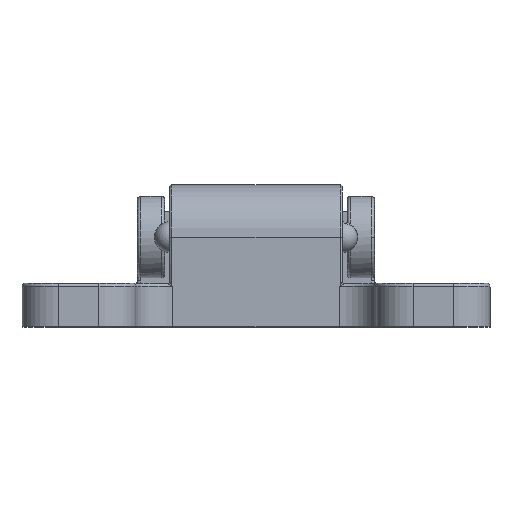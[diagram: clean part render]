
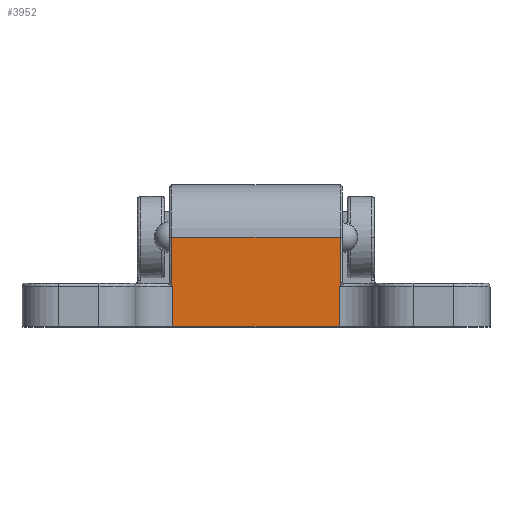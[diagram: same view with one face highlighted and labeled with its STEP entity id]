
A CAD part, left-side view. The second image highlights one B-rep face of the part: STEP entity #3952.
In plain terms, the highlighted planar face has unit normal (-1, 0, 0).
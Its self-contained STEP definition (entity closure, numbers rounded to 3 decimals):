
#343 = CARTESIAN_POINT ( 'NONE',  ( 1.5, 13.7, 14.5 ) ) ;
#353 = CARTESIAN_POINT ( 'NONE',  ( 1.5, 13.7, 6.575 ) ) ;
#361 = CARTESIAN_POINT ( 'NONE',  ( 1.5, 13.5, 6.5 ) ) ;
#389 = CARTESIAN_POINT ( 'NONE',  ( 1.5, -13.7, 14.5 ) ) ;
#397 = CARTESIAN_POINT ( 'NONE',  ( 1.5, -13.5, 0. ) ) ;
#416 = CARTESIAN_POINT ( 'NONE',  ( 1.5, 13.5, 0. ) ) ;
#477 = CARTESIAN_POINT ( 'NONE',  ( 1.5, -13.5, 6.5 ) ) ;
#1084 = VERTEX_POINT ( 'NONE', #5208 ) ;
#1139 = B_SPLINE_CURVE_WITH_KNOTS ( 'NONE', 3,
 ( #5695, #5709, #5710, #5713, #5714, #5767, #5765 ),
 .UNSPECIFIED., .F., .F.,
 ( 4, 3, 4 ),
 ( 0., 0., 0. ),
 .UNSPECIFIED. ) ;
#1140 = B_SPLINE_CURVE_WITH_KNOTS ( 'NONE', 3,
 ( #5700, #5752, #5751, #5753, #5749, #5740, #5730 ),
 .UNSPECIFIED., .F., .F.,
 ( 4, 3, 4 ),
 ( 0., 0., 0. ),
 .UNSPECIFIED. ) ;
#1774 = ORIENTED_EDGE ( 'NONE', *, *, #3794, .T. ) ;
#1775 = ORIENTED_EDGE ( 'NONE', *, *, #3793, .T. ) ;
#1776 = ORIENTED_EDGE ( 'NONE', *, *, #3790, .T. ) ;
#1777 = ORIENTED_EDGE ( 'NONE', *, *, #3772, .F. ) ;
#1778 = ORIENTED_EDGE ( 'NONE', *, *, #3791, .T. ) ;
#1780 = ORIENTED_EDGE ( 'NONE', *, *, #3796, .T. ) ;
#1781 = ORIENTED_EDGE ( 'NONE', *, *, #3795, .T. ) ;
#1782 = ORIENTED_EDGE ( 'NONE', *, *, #3792, .T. ) ;
#2282 = EDGE_LOOP ( 'NONE', ( #1774, #1775, #1776, #1777, #1778, #1780, #1781, #1782 ) ) ;
#2308 = FACE_OUTER_BOUND ( 'NONE', #2282, .T. ) ;
#2545 = VECTOR ( 'NONE', #5754, 1000. ) ;
#2546 = LINE ( 'NONE', #5756, #2545 ) ;
#2549 = VECTOR ( 'NONE', #6061, 1000. ) ;
#2551 = LINE ( 'NONE', #5704, #2549 ) ;
#2552 = LINE ( 'NONE', #5764, #2574 ) ;
#2553 = VECTOR ( 'NONE', #5701, 1000. ) ;
#2555 = VECTOR ( 'NONE', #6020, 1000. ) ;
#2556 = LINE ( 'NONE', #5699, #2555 ) ;
#2560 = LINE ( 'NONE', #5731, #2553 ) ;
#2574 = VECTOR ( 'NONE', #5758, 1000. ) ;
#2585 = VECTOR ( 'NONE', #6719, 1000. ) ;
#2598 = LINE ( 'NONE', #6740, #2585 ) ;
#3772 = EDGE_CURVE ( 'NONE', #5350, #5314, #2598, .T. ) ;
#3790 = EDGE_CURVE ( 'NONE', #5540, #5314, #2556, .T. ) ;
#3791 = EDGE_CURVE ( 'NONE', #5350, #5005, #2560, .T. ) ;
#3792 = EDGE_CURVE ( 'NONE', #5519, #5554, #2551, .T. ) ;
#3793 = EDGE_CURVE ( 'NONE', #5547, #5540, #1139, .T. ) ;
#3794 = EDGE_CURVE ( 'NONE', #5554, #5547, #2552, .T. ) ;
#3795 = EDGE_CURVE ( 'NONE', #1084, #5519, #2546, .T. ) ;
#3796 = EDGE_CURVE ( 'NONE', #5005, #1084, #1140, .T. ) ;
#3952 = ADVANCED_FACE ( 'NONE', ( #2308 ), #6148, .F. ) ;
#4260 = AXIS2_PLACEMENT_3D ( 'NONE', #6149, #6203, #6136 ) ;
#5005 = VERTEX_POINT ( 'NONE', #477 ) ;
#5208 = CARTESIAN_POINT ( 'NONE',  ( 1.5, -13.7, 6.575 ) ) ;
#5314 = VERTEX_POINT ( 'NONE', #416 ) ;
#5350 = VERTEX_POINT ( 'NONE', #397 ) ;
#5519 = VERTEX_POINT ( 'NONE', #389 ) ;
#5540 = VERTEX_POINT ( 'NONE', #361 ) ;
#5547 = VERTEX_POINT ( 'NONE', #353 ) ;
#5554 = VERTEX_POINT ( 'NONE', #343 ) ;
#5695 = CARTESIAN_POINT ( 'NONE',  ( 1.5, 13.7, 6.575 ) ) ;
#5699 = CARTESIAN_POINT ( 'NONE',  ( 1.5, 13.5, 0. ) ) ;
#5700 = CARTESIAN_POINT ( 'NONE',  ( 1.5, -13.5, 6.5 ) ) ;
#5701 = DIRECTION ( 'NONE',  ( 0., 0., 1. ) ) ;
#5704 = CARTESIAN_POINT ( 'NONE',  ( 1.5, 14., 14.5 ) ) ;
#5709 = CARTESIAN_POINT ( 'NONE',  ( 1.5, 13.638, 6.552 ) ) ;
#5710 = CARTESIAN_POINT ( 'NONE',  ( 1.5, 13.576, 6.529 ) ) ;
#5713 = CARTESIAN_POINT ( 'NONE',  ( 1.5, 13.514, 6.505 ) ) ;
#5714 = CARTESIAN_POINT ( 'NONE',  ( 1.5, 13.509, 6.504 ) ) ;
#5730 = CARTESIAN_POINT ( 'NONE',  ( 1.5, -13.7, 6.575 ) ) ;
#5731 = CARTESIAN_POINT ( 'NONE',  ( 1.5, -13.5, 7. ) ) ;
#5740 = CARTESIAN_POINT ( 'NONE',  ( 1.5, -13.638, 6.552 ) ) ;
#5749 = CARTESIAN_POINT ( 'NONE',  ( 1.5, -13.576, 6.529 ) ) ;
#5751 = CARTESIAN_POINT ( 'NONE',  ( 1.5, -13.509, 6.504 ) ) ;
#5752 = CARTESIAN_POINT ( 'NONE',  ( 1.5, -13.505, 6.502 ) ) ;
#5753 = CARTESIAN_POINT ( 'NONE',  ( 1.5, -13.514, 6.505 ) ) ;
#5754 = DIRECTION ( 'NONE',  ( 0., 0., 1. ) ) ;
#5756 = CARTESIAN_POINT ( 'NONE',  ( 1.5, -13.7, 23. ) ) ;
#5758 = DIRECTION ( 'NONE',  ( 0., 0., -1. ) ) ;
#5764 = CARTESIAN_POINT ( 'NONE',  ( 1.5, 13.7, 23. ) ) ;
#5765 = CARTESIAN_POINT ( 'NONE',  ( 1.5, 13.5, 6.5 ) ) ;
#5767 = CARTESIAN_POINT ( 'NONE',  ( 1.5, 13.505, 6.502 ) ) ;
#6020 = DIRECTION ( 'NONE',  ( 0., 0., -1. ) ) ;
#6061 = DIRECTION ( 'NONE',  ( 0., 1., 0. ) ) ;
#6136 = DIRECTION ( 'NONE',  ( 0., 1., 0. ) ) ;
#6148 = PLANE ( 'NONE',  #4260 ) ;
#6149 = CARTESIAN_POINT ( 'NONE',  ( 1.5, 14., 23. ) ) ;
#6203 = DIRECTION ( 'NONE',  ( 1., 0., 0. ) ) ;
#6719 = DIRECTION ( 'NONE',  ( 0., 1., 0. ) ) ;
#6740 = CARTESIAN_POINT ( 'NONE',  ( 1.5, -19.5, 0. ) ) ;
